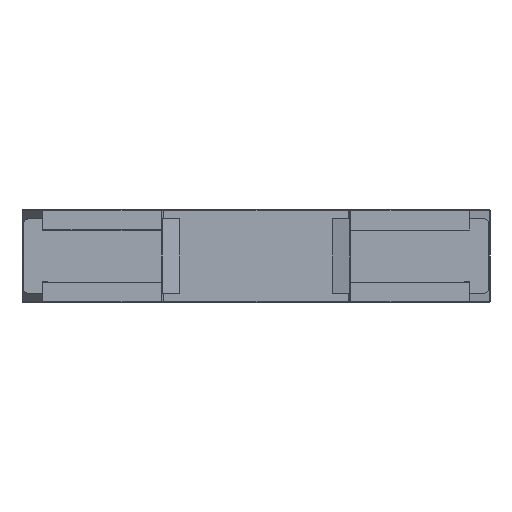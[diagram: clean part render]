
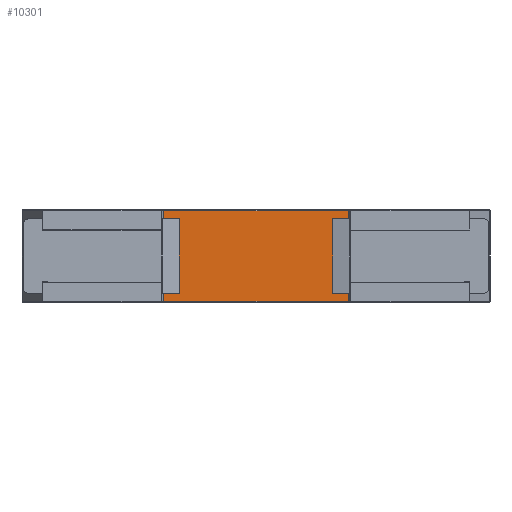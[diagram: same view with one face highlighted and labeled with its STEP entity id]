
A CAD part, front view. The second image highlights one B-rep face of the part: STEP entity #10301.
In plain terms, the highlighted planar face has unit normal (0, -1, 0).
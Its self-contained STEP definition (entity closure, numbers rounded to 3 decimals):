
#369 = LINE ( 'NONE', #4335, #12821 ) ;
#494 = VECTOR ( 'NONE', #4401, 1000. ) ;
#845 = CARTESIAN_POINT ( 'NONE',  ( 0., 0., -8.7 ) ) ;
#934 = EDGE_CURVE ( 'NONE', #6251, #4746, #14495, .T. ) ;
#943 = CARTESIAN_POINT ( 'NONE',  ( 0., 0., 8.7 ) ) ;
#1381 = DIRECTION ( 'NONE',  ( -1., 0., 0. ) ) ;
#2117 = CARTESIAN_POINT ( 'NONE',  ( -17.75, 0., -8.7 ) ) ;
#2345 = CARTESIAN_POINT ( 'NONE',  ( -17.75, 0., 7.925 ) ) ;
#2530 = DIRECTION ( 'NONE',  ( -1., 0., 0. ) ) ;
#3056 = LINE ( 'NONE', #9786, #494 ) ;
#3501 = VECTOR ( 'NONE', #5032, 1000. ) ;
#3711 = CARTESIAN_POINT ( 'NONE',  ( 17.5, 0., 0. ) ) ;
#3901 = CARTESIAN_POINT ( 'NONE',  ( -17.75, 0., -7.15 ) ) ;
#3969 = ORIENTED_EDGE ( 'NONE', *, *, #4875, .T. ) ;
#4052 = VERTEX_POINT ( 'NONE', #10033 ) ;
#4335 = CARTESIAN_POINT ( 'NONE',  ( 0., 0., 7.15 ) ) ;
#4401 = DIRECTION ( 'NONE',  ( 0., 0., 1. ) ) ;
#4450 = ORIENTED_EDGE ( 'NONE', *, *, #17200, .F. ) ;
#4640 = VECTOR ( 'NONE', #17570, 1000. ) ;
#4713 = DIRECTION ( 'NONE',  ( 1., 0., 0. ) ) ;
#4746 = VERTEX_POINT ( 'NONE', #3901 ) ;
#4875 = EDGE_CURVE ( 'NONE', #15037, #8357, #4936, .T. ) ;
#4936 = LINE ( 'NONE', #2345, #3501 ) ;
#4963 = CARTESIAN_POINT ( 'NONE',  ( 17.75, 0., 0. ) ) ;
#5032 = DIRECTION ( 'NONE',  ( 0., 0., -1. ) ) ;
#5120 = VERTEX_POINT ( 'NONE', #9093 ) ;
#5223 = LINE ( 'NONE', #3711, #4640 ) ;
#5327 = LINE ( 'NONE', #7909, #17048 ) ;
#5555 = CARTESIAN_POINT ( 'NONE',  ( 16.407, 0., -7.15 ) ) ;
#5601 = VERTEX_POINT ( 'NONE', #7240 ) ;
#5714 = VECTOR ( 'NONE', #4713, 1000. ) ;
#6044 = EDGE_CURVE ( 'NONE', #10728, #15037, #6222, .T. ) ;
#6222 = LINE ( 'NONE', #943, #8678 ) ;
#6251 = VERTEX_POINT ( 'NONE', #16121 ) ;
#6271 = DIRECTION ( 'NONE',  ( -1., 0., 0. ) ) ;
#6307 = ORIENTED_EDGE ( 'NONE', *, *, #16776, .T. ) ;
#6403 = ORIENTED_EDGE ( 'NONE', *, *, #9355, .F. ) ;
#6411 = DIRECTION ( 'NONE',  ( -1., 0., 0. ) ) ;
#6546 = CARTESIAN_POINT ( 'NONE',  ( -16.407, 0., -7.15 ) ) ;
#7029 = VECTOR ( 'NONE', #16535, 1000. ) ;
#7124 = EDGE_CURVE ( 'NONE', #10728, #16736, #17033, .T. ) ;
#7181 = VECTOR ( 'NONE', #11047, 1000. ) ;
#7224 = CARTESIAN_POINT ( 'NONE',  ( -17.75, 0., 8.7 ) ) ;
#7240 = CARTESIAN_POINT ( 'NONE',  ( 17.75, 0., -7.15 ) ) ;
#7257 = ORIENTED_EDGE ( 'NONE', *, *, #12407, .F. ) ;
#7909 = CARTESIAN_POINT ( 'NONE',  ( 16.407, 0., 7.15 ) ) ;
#7981 = VERTEX_POINT ( 'NONE', #8470 ) ;
#8090 = FACE_OUTER_BOUND ( 'NONE', #9570, .T. ) ;
#8357 = VERTEX_POINT ( 'NONE', #16752 ) ;
#8470 = CARTESIAN_POINT ( 'NONE',  ( 17.5, 0., -7.15 ) ) ;
#8678 = VECTOR ( 'NONE', #6411, 1000. ) ;
#8887 = ORIENTED_EDGE ( 'NONE', *, *, #13350, .F. ) ;
#8949 = ORIENTED_EDGE ( 'NONE', *, *, #7124, .F. ) ;
#9093 = CARTESIAN_POINT ( 'NONE',  ( 17.5, 0., 7.15 ) ) ;
#9165 = DIRECTION ( 'NONE',  ( -1., 0., 0. ) ) ;
#9355 = EDGE_CURVE ( 'NONE', #16736, #5120, #5327, .T. ) ;
#9570 = EDGE_LOOP ( 'NONE', ( #4450, #14551, #12593, #13435, #7257, #6307, #8887, #6403, #8949, #11640, #3969, #9897 ) ) ;
#9583 = LINE ( 'NONE', #5555, #7029 ) ;
#9786 = CARTESIAN_POINT ( 'NONE',  ( -17.75, 0., 0. ) ) ;
#9897 = ORIENTED_EDGE ( 'NONE', *, *, #15596, .F. ) ;
#9911 = VECTOR ( 'NONE', #12173, 1000. ) ;
#10033 = CARTESIAN_POINT ( 'NONE',  ( 17.75, 0., -8.7 ) ) ;
#10301 = ADVANCED_FACE ( 'NONE', ( #8090 ), #12028, .F. ) ;
#10457 = EDGE_CURVE ( 'NONE', #16023, #4746, #3056, .T. ) ;
#10728 = VERTEX_POINT ( 'NONE', #14943 ) ;
#10815 = LINE ( 'NONE', #15181, #9911 ) ;
#11031 = EDGE_CURVE ( 'NONE', #16023, #4052, #13124, .T. ) ;
#11047 = DIRECTION ( 'NONE',  ( 0., 0., -1. ) ) ;
#11287 = VECTOR ( 'NONE', #16062, 1000. ) ;
#11329 = CARTESIAN_POINT ( 'NONE',  ( -17.5, 0., 7.15 ) ) ;
#11640 = ORIENTED_EDGE ( 'NONE', *, *, #6044, .T. ) ;
#12028 = PLANE ( 'NONE',  #13943 ) ;
#12173 = DIRECTION ( 'NONE',  ( 0., 0., 1. ) ) ;
#12407 = EDGE_CURVE ( 'NONE', #5601, #4052, #12732, .T. ) ;
#12593 = ORIENTED_EDGE ( 'NONE', *, *, #10457, .F. ) ;
#12732 = LINE ( 'NONE', #16413, #7181 ) ;
#12821 = VECTOR ( 'NONE', #1381, 1000. ) ;
#13124 = LINE ( 'NONE', #845, #5714 ) ;
#13148 = CARTESIAN_POINT ( 'NONE',  ( 17.75, 0., 7.15 ) ) ;
#13172 = DIRECTION ( 'NONE',  ( 0., 1., 0. ) ) ;
#13350 = EDGE_CURVE ( 'NONE', #5120, #7981, #5223, .T. ) ;
#13435 = ORIENTED_EDGE ( 'NONE', *, *, #11031, .T. ) ;
#13943 = AXIS2_PLACEMENT_3D ( 'NONE', #14777, #13172, #2530 ) ;
#14258 = VECTOR ( 'NONE', #6271, 1000. ) ;
#14495 = LINE ( 'NONE', #6546, #14258 ) ;
#14551 = ORIENTED_EDGE ( 'NONE', *, *, #934, .T. ) ;
#14777 = CARTESIAN_POINT ( 'NONE',  ( 17.75, 0., -8.7 ) ) ;
#14943 = CARTESIAN_POINT ( 'NONE',  ( 17.75, 0., 8.7 ) ) ;
#15037 = VERTEX_POINT ( 'NONE', #7224 ) ;
#15181 = CARTESIAN_POINT ( 'NONE',  ( -17.5, 0., 0. ) ) ;
#15596 = EDGE_CURVE ( 'NONE', #17320, #8357, #369, .T. ) ;
#16023 = VERTEX_POINT ( 'NONE', #2117 ) ;
#16062 = DIRECTION ( 'NONE',  ( 0., 0., -1. ) ) ;
#16121 = CARTESIAN_POINT ( 'NONE',  ( -17.5, 0., -7.15 ) ) ;
#16413 = CARTESIAN_POINT ( 'NONE',  ( 17.75, 0., 0. ) ) ;
#16535 = DIRECTION ( 'NONE',  ( -1., 0., 0. ) ) ;
#16736 = VERTEX_POINT ( 'NONE', #13148 ) ;
#16752 = CARTESIAN_POINT ( 'NONE',  ( -17.75, 0., 7.15 ) ) ;
#16776 = EDGE_CURVE ( 'NONE', #5601, #7981, #9583, .T. ) ;
#17033 = LINE ( 'NONE', #4963, #11287 ) ;
#17048 = VECTOR ( 'NONE', #9165, 1000. ) ;
#17200 = EDGE_CURVE ( 'NONE', #6251, #17320, #10815, .T. ) ;
#17320 = VERTEX_POINT ( 'NONE', #11329 ) ;
#17570 = DIRECTION ( 'NONE',  ( 0., 0., -1. ) ) ;
